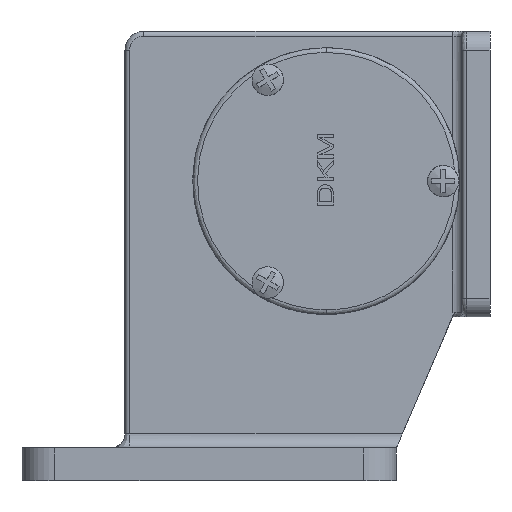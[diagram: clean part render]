
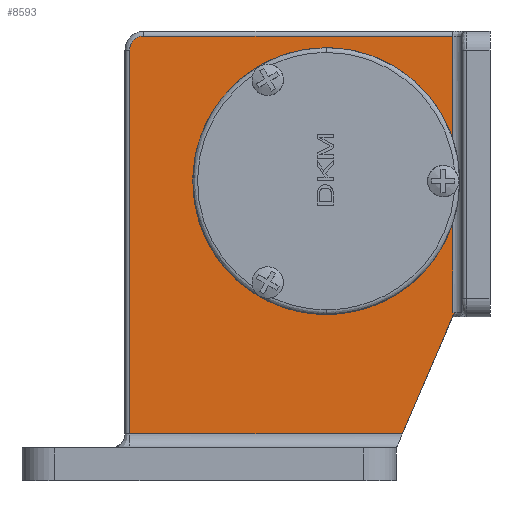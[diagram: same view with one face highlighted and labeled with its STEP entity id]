
A CAD part, left-side view. The second image highlights one B-rep face of the part: STEP entity #8593.
In plain terms, the highlighted planar face has unit normal (-1, 0, 0).
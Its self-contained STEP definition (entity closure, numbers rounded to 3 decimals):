
#51 = ORIENTED_EDGE ( 'NONE', *, *, #3001, .F. ) ;
#70 = CARTESIAN_POINT ( 'NONE',  ( -18., 7.785, -28.152 ) ) ;
#116 = CARTESIAN_POINT ( 'NONE',  ( -18., 8., -28. ) ) ;
#145 = CARTESIAN_POINT ( 'NONE',  ( -18., 74., 31. ) ) ;
#298 = CARTESIAN_POINT ( 'NONE',  ( -18., 8., 31. ) ) ;
#336 = PLANE ( 'NONE',  #1295 ) ;
#416 = CARTESIAN_POINT ( 'NONE',  ( -18., 8., -11.5 ) ) ;
#532 = EDGE_CURVE ( 'NONE', #4638, #12179, #7703, .T. ) ;
#1178 = CARTESIAN_POINT ( 'NONE',  ( -18., 35., 0. ) ) ;
#1195 = VECTOR ( 'NONE', #8033, 1000. ) ;
#1214 = EDGE_CURVE ( 'NONE', #4494, #3439, #10024, .T. ) ;
#1295 = AXIS2_PLACEMENT_3D ( 'NONE', #5030, #6019, #6323 ) ;
#1390 = CARTESIAN_POINT ( 'NONE',  ( -18., 18.714, -54. ) ) ;
#1544 = CARTESIAN_POINT ( 'NONE',  ( -18., 7.67, -28.231 ) ) ;
#1553 = AXIS2_PLACEMENT_3D ( 'NONE', #1178, #5141, #11954 ) ;
#1835 = CARTESIAN_POINT ( 'NONE',  ( -18., 77., 29.757 ) ) ;
#1907 = VECTOR ( 'NONE', #11076, 1000. ) ;
#2031 = VERTEX_POINT ( 'NONE', #298 ) ;
#2046 = ORIENTED_EDGE ( 'NONE', *, *, #3108, .F. ) ;
#2112 = B_SPLINE_CURVE_WITH_KNOTS ( 'NONE', 3,
 ( #116, #3033, #70, #3944 ),
 .UNSPECIFIED., .F., .F.,
 ( 4, 4 ),
 ( 0., 1. ),
 .UNSPECIFIED. ) ;
#2534 = LINE ( 'NONE', #9776, #12049 ) ;
#2732 = CARTESIAN_POINT ( 'NONE',  ( -18., 77., 28. ) ) ;
#2824 = ORIENTED_EDGE ( 'NONE', *, *, #8582, .T. ) ;
#2856 = VERTEX_POINT ( 'NONE', #5015 ) ;
#3001 = EDGE_CURVE ( 'NONE', #2856, #4638, #5817, .T. ) ;
#3033 = CARTESIAN_POINT ( 'NONE',  ( -18., 7.894, -28.074 ) ) ;
#3108 = EDGE_CURVE ( 'NONE', #2031, #2856, #4581, .T. ) ;
#3118 = VERTEX_POINT ( 'NONE', #1544 ) ;
#3439 = VERTEX_POINT ( 'NONE', #145 ) ;
#3923 = DIRECTION ( 'NONE',  ( 0., 1., 0. ) ) ;
#3944 = CARTESIAN_POINT ( 'NONE',  ( -18., 7.67, -28.231 ) ) ;
#4077 = LINE ( 'NONE', #5023, #1195 ) ;
#4103 = CARTESIAN_POINT ( 'NONE',  ( -18., 8., -28. ) ) ;
#4494 = VERTEX_POINT ( 'NONE', #5153 ) ;
#4521 = VERTEX_POINT ( 'NONE', #1390 ) ;
#4554 = ORIENTED_EDGE ( 'NONE', *, *, #1214, .F. ) ;
#4581 = LINE ( 'NONE', #416, #5495 ) ;
#4638 = VERTEX_POINT ( 'NONE', #5299 ) ;
#4779 = ORIENTED_EDGE ( 'NONE', *, *, #7160, .F. ) ;
#4849 = ORIENTED_EDGE ( 'NONE', *, *, #532, .F. ) ;
#5015 = CARTESIAN_POINT ( 'NONE',  ( -18., 8., 9.124 ) ) ;
#5023 = CARTESIAN_POINT ( 'NONE',  ( -18., 41., 31. ) ) ;
#5030 = CARTESIAN_POINT ( 'NONE',  ( -18., 7.254, 31. ) ) ;
#5094 = CARTESIAN_POINT ( 'NONE',  ( -18., 77., -54. ) ) ;
#5141 = DIRECTION ( 'NONE',  ( -1., 0., 0. ) ) ;
#5153 = CARTESIAN_POINT ( 'NONE',  ( -18., 77., 28. ) ) ;
#5218 = LINE ( 'NONE', #5360, #10899 ) ;
#5299 = CARTESIAN_POINT ( 'NONE',  ( -18., 8., -9.124 ) ) ;
#5360 = CARTESIAN_POINT ( 'NONE',  ( -18., 13.798, -42.529 ) ) ;
#5495 = VECTOR ( 'NONE', #7409, 1000. ) ;
#5817 = CIRCLE ( 'NONE', #1553, 28.5 ) ;
#6019 = DIRECTION ( 'NONE',  ( 1., 0., 0. ) ) ;
#6323 = DIRECTION ( 'NONE',  ( 0., 0., -1. ) ) ;
#6771 = CARTESIAN_POINT ( 'NONE',  ( -18., 74., 31. ) ) ;
#6824 = LINE ( 'NONE', #11973, #1907 ) ;
#7160 = EDGE_CURVE ( 'NONE', #4521, #11036, #2534, .T. ) ;
#7302 = DIRECTION ( 'NONE',  ( 0., -0.394, 0.919 ) ) ;
#7409 = DIRECTION ( 'NONE',  ( 0., 0., -1. ) ) ;
#7524 = CARTESIAN_POINT ( 'NONE',  ( -18., 8., -11.5 ) ) ;
#7579 = DIRECTION ( 'NONE',  ( 0., 0., -1. ) ) ;
#7703 = LINE ( 'NONE', #7524, #11679 ) ;
#7707 = ORIENTED_EDGE ( 'NONE', *, *, #11919, .T. ) ;
#8033 = DIRECTION ( 'NONE',  ( 0., 1., 0. ) ) ;
#8168 = ORIENTED_EDGE ( 'NONE', *, *, #10823, .T. ) ;
#8345 = ORIENTED_EDGE ( 'NONE', *, *, #9013, .F. ) ;
#8582 = EDGE_CURVE ( 'NONE', #4494, #11036, #6824, .T. ) ;
#8593 = ADVANCED_FACE ( 'NONE', ( #11245 ), #336, .F. ) ;
#9013 = EDGE_CURVE ( 'NONE', #12179, #3118, #2112, .T. ) ;
#9744 = CARTESIAN_POINT ( 'NONE',  ( -18., 75.757, 31. ) ) ;
#9776 = CARTESIAN_POINT ( 'NONE',  ( -18., 47.682, -54. ) ) ;
#10024 =( BOUNDED_CURVE ( )  B_SPLINE_CURVE ( 3, ( #2732, #1835, #9744, #6771 ),
 .UNSPECIFIED., .F., .F. ) 
 B_SPLINE_CURVE_WITH_KNOTS ( ( 4, 4 ),
 ( 0., 1. ),
 .UNSPECIFIED. ) 
 CURVE ( )  GEOMETRIC_REPRESENTATION_ITEM ( )  RATIONAL_B_SPLINE_CURVE ( ( 0.957, 0.77, 0.77, 0.957 ) ) 
 REPRESENTATION_ITEM ( '' )  );
#10823 = EDGE_CURVE ( 'NONE', #4521, #3118, #5218, .T. ) ;
#10899 = VECTOR ( 'NONE', #7302, 1000. ) ;
#11036 = VERTEX_POINT ( 'NONE', #5094 ) ;
#11076 = DIRECTION ( 'NONE',  ( 0., 0., -1. ) ) ;
#11245 = FACE_OUTER_BOUND ( 'NONE', #12042, .T. ) ;
#11679 = VECTOR ( 'NONE', #7579, 1000. ) ;
#11919 = EDGE_CURVE ( 'NONE', #2031, #3439, #4077, .T. ) ;
#11954 = DIRECTION ( 'NONE',  ( 0., 0., -1. ) ) ;
#11973 = CARTESIAN_POINT ( 'NONE',  ( -18., 77., -13. ) ) ;
#12042 = EDGE_LOOP ( 'NONE', ( #4779, #8168, #8345, #4849, #51, #2046, #7707, #4554, #2824 ) ) ;
#12049 = VECTOR ( 'NONE', #3923, 1000. ) ;
#12179 = VERTEX_POINT ( 'NONE', #4103 ) ;
